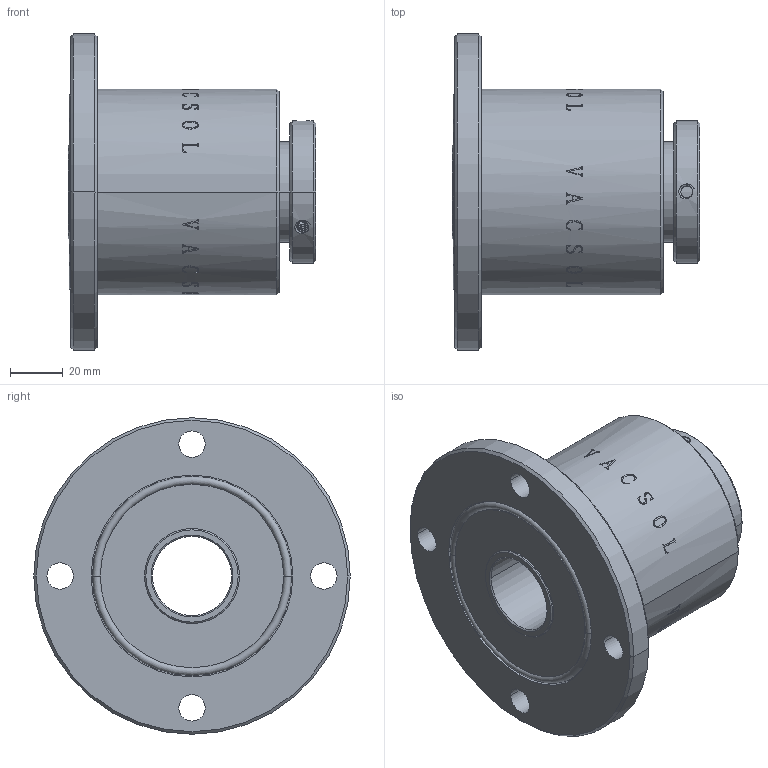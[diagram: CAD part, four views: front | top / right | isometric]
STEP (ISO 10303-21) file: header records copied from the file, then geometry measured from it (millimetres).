
FILE_DESCRIPTION (( 'STEP AP214' ), '1' );
FILE_NAME ('m30.STEP', '2010-08-26T12:34:36', ( 'user' ), ( '' ), 'SwSTEP 2.0', 'SolidWorks 2007', '' );
FILE_SCHEMA (( 'AUTOMOTIVE_DESIGN' ));
Length unit declared in the file: millimetre
Products named in the file (1): m30
Bounding box: 94 x 120 x 120 mm (x, y, z)
Volume: 399471 mm3; surface area: 61144.4 mm2
Topology: 2 solids, 2 shells, 431 faces, 1167 edges, 770 vertices
Faces by surface type: bspline 264, cylinder 85, plane 58, cone 20, torus 4
Entity records: 49509 total; most frequent: CARTESIAN_POINT 37564, ORIENTED_EDGE 2334, EDGE_CURVE 1167, B_SPLINE_CURVE_WITH_KNOTS 820, VERTEX_POINT 770, DIRECTION 747, EDGE_LOOP 479, FACE_OUTER_BOUND 431
